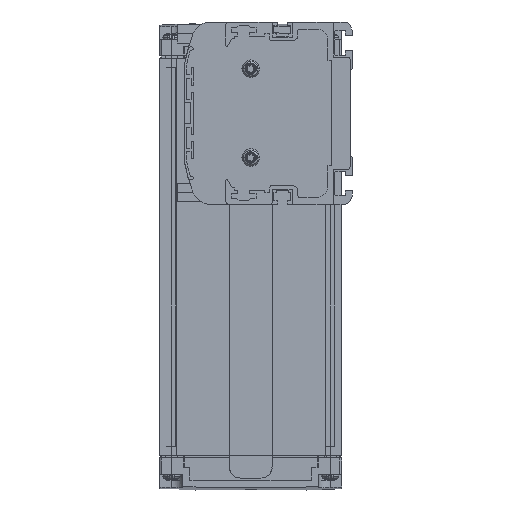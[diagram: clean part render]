
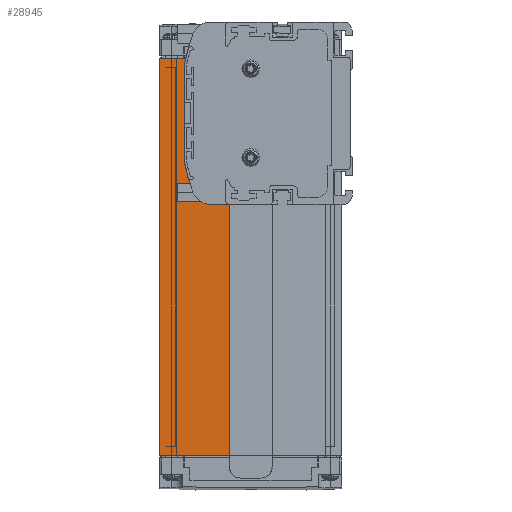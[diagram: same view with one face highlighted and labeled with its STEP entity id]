
A CAD part, left-side view. The second image highlights one B-rep face of the part: STEP entity #28945.
In plain terms, the highlighted planar face has unit normal (-1, 0, 0).
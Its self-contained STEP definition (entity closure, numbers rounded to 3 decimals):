
#4698=DIRECTION('',(0.,-1.,0.));
#4699=VECTOR('',#4698,8.155);
#4700=CARTESIAN_POINT('',(3.,60.755,-39.));
#4701=LINE('',#4700,#4699);
#4736=DIRECTION('',(0.,-1.,0.));
#4737=VECTOR('',#4736,29.9);
#4738=CARTESIAN_POINT('',(3.,82.5,-146.5));
#4739=LINE('',#4738,#4737);
#4740=DIRECTION('',(0.,1.,0.));
#4741=VECTOR('',#4740,11.203);
#4742=CARTESIAN_POINT('',(3.,71.297,23.5));
#4743=LINE('',#4742,#4741);
#4760=DIRECTION('',(0.,0.,1.));
#4761=VECTOR('',#4760,107.5);
#4762=CARTESIAN_POINT('',(3.,52.6,-146.5));
#4763=LINE('',#4762,#4761);
#4764=DIRECTION('',(0.,1.,0.));
#4765=VECTOR('',#4764,0.209);
#4766=CARTESIAN_POINT('',(3.,70.291,-27.5));
#4767=LINE('',#4766,#4765);
#4788=DIRECTION('',(0.,0.,1.));
#4789=VECTOR('',#4788,0.762);
#4790=CARTESIAN_POINT('',(3.,70.5,-27.5));
#4791=LINE('',#4790,#4789);
#10802=CARTESIAN_POINT('',(3.,-6.765,6.));
#10803=DIRECTION('',(1.,0.,0.));
#10804=DIRECTION('',(0.,0.984,0.177));
#10805=AXIS2_PLACEMENT_3D('',#10802,#10803,#10804);
#10807=CARTESIAN_POINT('',(3.,70.,19.823));
#10808=DIRECTION('',(1.,0.,0.));
#10809=DIRECTION('',(0.,1.,0.));
#10810=AXIS2_PLACEMENT_3D('',#10807,#10808,#10809);
#10816=DIRECTION('',(0.,0.,1.));
#10817=VECTOR('',#10816,39.645);
#10818=CARTESIAN_POINT('',(3.,72.,-19.823));
#10819=LINE('',#10818,#10817);
#10824=CARTESIAN_POINT('',(3.,70.,-19.823));
#10825=DIRECTION('',(-1.,0.,0.));
#10826=DIRECTION('',(0.,1.,0.));
#10827=AXIS2_PLACEMENT_3D('',#10824,#10825,#10826);
#10837=CARTESIAN_POINT('',(3.,-6.765,-6.));
#10838=DIRECTION('',(1.,0.,0.));
#10839=DIRECTION('',(0.,0.938,-0.347));
#10840=AXIS2_PLACEMENT_3D('',#10837,#10838,#10839);
#10842=CARTESIAN_POINT('',(3.,-6.765,-6.));
#10843=DIRECTION('',(1.,0.,0.));
#10844=DIRECTION('',(0.,0.966,-0.259));
#10845=AXIS2_PLACEMENT_3D('',#10842,#10843,#10844);
#10851=CARTESIAN_POINT('',(3.,60.755,-31.));
#10852=DIRECTION('',(1.,0.,0.));
#10853=DIRECTION('',(0.,0.,-1.));
#10854=AXIS2_PLACEMENT_3D('',#10851,#10852,#10853);
#14260=DIRECTION('',(0.,0.,1.));
#14261=VECTOR('',#14260,170.);
#14262=CARTESIAN_POINT('',(3.,82.5,-146.5));
#14263=LINE('',#14262,#14261);
#18148=CARTESIAN_POINT('',(3.,82.5,23.5));
#18149=VERTEX_POINT('',#18148);
#18194=CARTESIAN_POINT('',(3.,82.5,-146.5));
#18195=VERTEX_POINT('',#18194);
#18196=CARTESIAN_POINT('',(3.,52.6,-146.5));
#18197=VERTEX_POINT('',#18196);
#18226=CARTESIAN_POINT('',(3.,70.5,-27.5));
#18228=VERTEX_POINT('',#18226);
#22381=CARTESIAN_POINT('',(3.,60.755,-39.));
#22382=CARTESIAN_POINT('',(3.,52.6,-39.));
#22383=VERTEX_POINT('',#22381);
#22384=VERTEX_POINT('',#22382);
#22385=CARTESIAN_POINT('',(3.,71.297,23.5));
#22387=VERTEX_POINT('',#22385);
#22395=CARTESIAN_POINT('',(3.,70.5,-26.738));
#22396=VERTEX_POINT('',#22395);
#22399=CARTESIAN_POINT('',(3.,70.291,-27.5));
#22401=VERTEX_POINT('',#22399);
#22411=CARTESIAN_POINT('',(3.,72.,19.823));
#22412=CARTESIAN_POINT('',(3.,71.968,20.177));
#22413=VERTEX_POINT('',#22411);
#22414=VERTEX_POINT('',#22412);
#22427=CARTESIAN_POINT('',(3.,68.257,-33.778));
#22428=VERTEX_POINT('',#22427);
#22429=CARTESIAN_POINT('',(3.,71.968,-20.177));
#22430=VERTEX_POINT('',#22429);
#22431=CARTESIAN_POINT('',(3.,72.,-19.823));
#22432=VERTEX_POINT('',#22431);
#28912=CARTESIAN_POINT('',(3.,67.55,-61.5));
#28913=DIRECTION('',(1.,0.,0.));
#28914=DIRECTION('',(0.,1.,0.));
#28915=AXIS2_PLACEMENT_3D('',#28912,#28913,#28914);
#28916=PLANE('',#28915);
#28917=ORIENTED_EDGE('',*,*,#28880,.T.);
#28919=ORIENTED_EDGE('',*,*,#28918,.F.);
#28920=ORIENTED_EDGE('',*,*,#22858,.F.);
#28922=ORIENTED_EDGE('',*,*,#28921,.T.);
#28924=ORIENTED_EDGE('',*,*,#28923,.F.);
#28926=ORIENTED_EDGE('',*,*,#28925,.F.);
#28928=ORIENTED_EDGE('',*,*,#28927,.F.);
#28930=ORIENTED_EDGE('',*,*,#28929,.F.);
#28932=ORIENTED_EDGE('',*,*,#28931,.T.);
#28934=ORIENTED_EDGE('',*,*,#28933,.F.);
#28936=ORIENTED_EDGE('',*,*,#28935,.F.);
#28938=ORIENTED_EDGE('',*,*,#28937,.F.);
#28940=ORIENTED_EDGE('',*,*,#28939,.F.);
#28942=ORIENTED_EDGE('',*,*,#28941,.F.);
#28943=EDGE_LOOP('',(#28917,#28919,#28920,#28922,#28924,#28926,#28928,#28930,
#28932,#28934,#28936,#28938,#28940,#28942));
#28944=FACE_OUTER_BOUND('',#28943,.F.);
#28945=ADVANCED_FACE('',(#28944),#28916,.F.);
#10806=CIRCLE('',#10805,80.);
#10811=CIRCLE('',#10810,2.);
#10828=CIRCLE('',#10827,2.);
#10841=CIRCLE('',#10840,80.);
#10846=CIRCLE('',#10845,80.);
#10855=CIRCLE('',#10854,8.);
#22858=EDGE_CURVE('',#18195,#18197,#4739,.T.);
#28880=EDGE_CURVE('',#22383,#22384,#4701,.T.);
#28918=EDGE_CURVE('',#18197,#22384,#4763,.T.);
#28921=EDGE_CURVE('',#18195,#18149,#14263,.T.);
#28923=EDGE_CURVE('',#22387,#18149,#4743,.T.);
#28925=EDGE_CURVE('',#22414,#22387,#10806,.T.);
#28927=EDGE_CURVE('',#22413,#22414,#10811,.T.);
#28929=EDGE_CURVE('',#22432,#22413,#10819,.T.);
#28931=EDGE_CURVE('',#22432,#22430,#10828,.T.);
#28933=EDGE_CURVE('',#22396,#22430,#10846,.T.);
#28935=EDGE_CURVE('',#18228,#22396,#4791,.T.);
#28937=EDGE_CURVE('',#22401,#18228,#4767,.T.);
#28939=EDGE_CURVE('',#22428,#22401,#10841,.T.);
#28941=EDGE_CURVE('',#22383,#22428,#10855,.T.);
